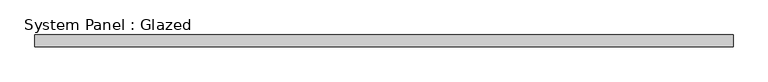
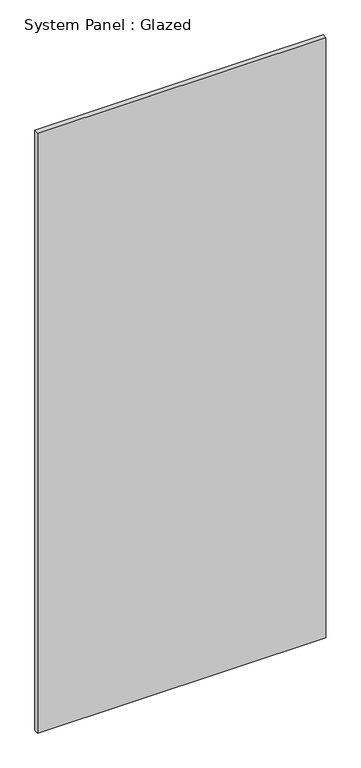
"""IFC4 building model written with IfcOpenShell, lengths in millimetres: plate geometry, System Panel : Glazed."""

from ifc_helpers import new_model, si_unit, origin, origin_with_axes, place, context, project, spatial, polyline, outline, extrude, source, transform, mapped, element, save


def system_panel_glazed_aad28971(model_context):
    return source(origin(), model_context, "Body", "SweptSolid", [
        extrude(outline(polyline([(750.0, 24.5), (-750.0, 24.5), (-750.0, 49.5), (750.0, 49.5), (750.0, 24.5)])), origin_with_axes(), (0.0, 0.0, 1.0), 3300.0),
    ])


if __name__ == "__main__":
    model = new_model("IFC4")
    model_context = context("Model", 3, world=origin())
    ifc_project = project(units=[si_unit("LENGTHUNIT", "METRE", prefix="MILLI")], contexts=[model_context])
    site = spatial("IfcSite", under=ifc_project)
    building = spatial("IfcBuilding", under=site)
    placement = place(None, origin())
    system_panel_glazed_shape = system_panel_glazed_aad28971(model_context)
    element("IfcPlate", 1, ObjectType="System Panel : Glazed", at=placement, inside=building, context=model_context, shape_type="MappedRepresentation", body=[
        mapped(system_panel_glazed_shape, transform((0.0, 0.0, 0.0), x_axis=(1.0, 0.0, 0.0), y_axis=(0.0, 1.0, 0.0), z_axis=(0.0, 0.0, 1.0))),
    ])
    save(model, "model.ifc")
